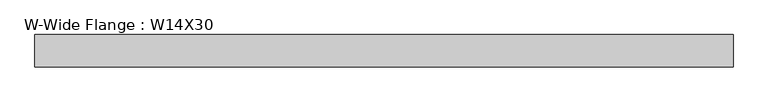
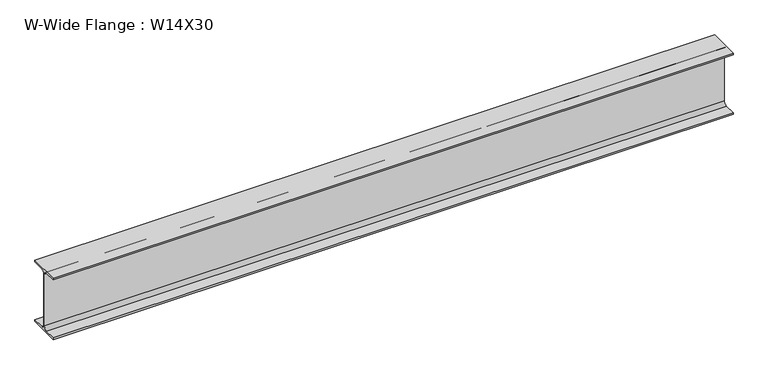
"""IFC4 building model written with IfcOpenShell, lengths in millimetres: beam geometry, W-Wide Flange : W14X30."""

from ifc_helpers import new_model, si_unit, point, frame, frame_2d, origin, place, context, project, spatial, polyline, circle_curve, trimmed, segment, composite_curve, outline, extrude, source, transform, mapped, element, save


def w_wide_flange_w14x30_0234fe31(model_context):
    return source(origin(), model_context, "Body", "SweptSolid", [
        extrude(outline(composite_curve([segment(polyline([(85.4769531, -165.9433594), (85.4769531, -175.7660156), (-85.4769531, -175.7660156), (-85.4769531, -165.9433594), (-22.1753906, -165.9433594)]), True, "CONTINUOUS"), segment(trimmed(circle_curve(frame_2d((-22.1753906, -147.1910156)), 18.7523438), [point((-22.1753906, -165.9433594))], [point((-3.4230469, -147.1910156))], True, "CARTESIAN"), True, "CONTINUOUS"), segment(polyline([(-3.4230469, -147.1910156), (-3.4230469, 147.1910156)]), True, "CONTINUOUS"), segment(trimmed(circle_curve(frame_2d((-22.1753906, 147.1910156)), 18.7523438), [point((-3.4230469, 147.1910156))], [point((-22.1753906, 165.9433594))], True, "CARTESIAN"), True, "CONTINUOUS"), segment(polyline([(-22.1753906, 165.9433594), (-85.4769531, 165.9433594), (-85.4769531, 175.7660156), (85.4769531, 175.7660156), (85.4769531, 165.9433594), (22.1753906, 165.9433594)]), True, "CONTINUOUS"), segment(trimmed(circle_curve(frame_2d((22.1753906, 147.1910156)), 18.7523438), [point((22.1753906, 165.9433594))], [point((3.4230469, 147.1910156))], True, "CARTESIAN"), True, "CONTINUOUS"), segment(polyline([(3.4230469, 147.1910156), (3.4230469, -147.1910156)]), True, "CONTINUOUS"), segment(trimmed(circle_curve(frame_2d((22.1753906, -147.1910156)), 18.7523438), [point((3.4230469, -147.1910156))], [point((22.1753906, -165.9433594))], True, "CARTESIAN"), True, "CONTINUOUS"), segment(polyline([(22.1753906, -165.9433594), (85.4769531, -165.9433594)]), True, "CONTINUOUS")], self_intersect=False)), frame((-1840.8027264, 0.0, 0.0), z_axis=(1.0, 0.0, 0.0), x_axis=(0.0, 1.0, 0.0)), (0.0, 0.0, 1.0), 3681.6054527),
    ])


if __name__ == "__main__":
    model = new_model("IFC4")
    model_context = context("Model", 3, world=origin())
    ifc_project = project(units=[si_unit("LENGTHUNIT", "METRE", prefix="MILLI")], contexts=[model_context])
    site = spatial("IfcSite", under=ifc_project)
    building = spatial("IfcBuilding", under=site)
    placement = place(None, origin())
    w_wide_flange_w14x30_shape = w_wide_flange_w14x30_0234fe31(model_context)
    element("IfcBeam", 1, ObjectType="W-Wide Flange : W14X30", at=placement, inside=building, context=model_context, shape_type="MappedRepresentation", body=[
        mapped(w_wide_flange_w14x30_shape, transform((0.0, 0.0, 0.0), x_axis=(1.0, 0.0, 0.0), y_axis=(0.0, 1.0, 0.0), z_axis=(0.0, 0.0, 1.0))),
    ])
    save(model, "model.ifc")
